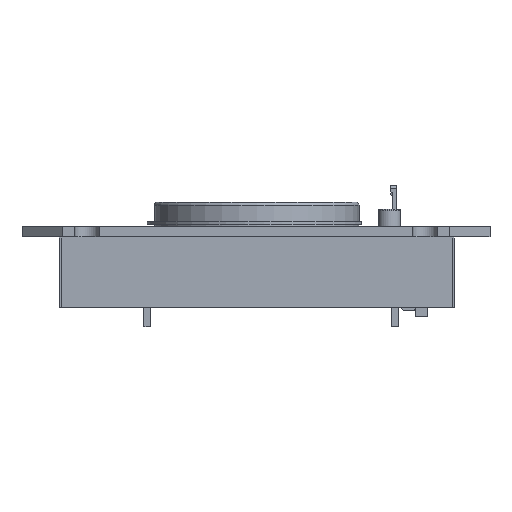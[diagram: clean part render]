
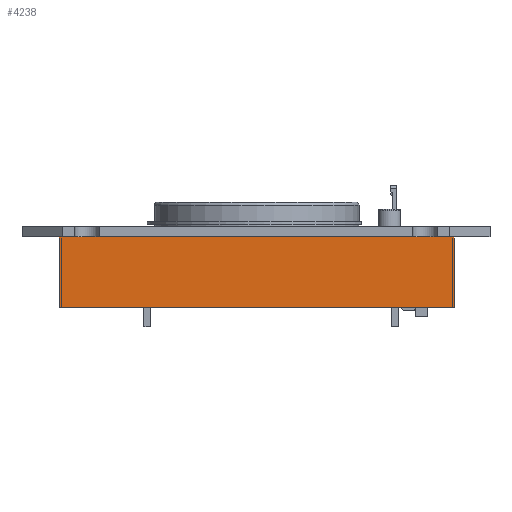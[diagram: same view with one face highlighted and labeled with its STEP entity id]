
A CAD part, left-side view. The second image highlights one B-rep face of the part: STEP entity #4238.
In plain terms, the highlighted planar face has unit normal (-1, 0, 0) as drawn and (1, 0, 0) by its records, which use the part's own axes.
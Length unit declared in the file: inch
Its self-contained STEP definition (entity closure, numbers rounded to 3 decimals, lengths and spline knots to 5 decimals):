
#3949=CARTESIAN_POINT('',(5.62,2.55,0.063));
#3950=VERTEX_POINT('',#3949);
#3957=CARTESIAN_POINT('',(5.62,0.12,0.063));
#3958=VERTEX_POINT('',#3957);
#3959=CARTESIAN_POINT('',(5.62,2.55,0.063));
#3960=DIRECTION('',(0.0,-1.0,0.0));
#3961=VECTOR('',#3960,2.43);
#3962=LINE('',#3959,#3961);
#3963=EDGE_CURVE('',#3950,#3958,#3962,.T.);
#4143=CARTESIAN_POINT('',(5.62,2.55,0.49607));
#4144=VERTEX_POINT('',#4143);
#4151=CARTESIAN_POINT('',(5.62,2.55,0.063));
#4152=DIRECTION('',(0.0,0.0,1.0));
#4153=VECTOR('',#4152,0.43307);
#4154=LINE('',#4151,#4153);
#4155=EDGE_CURVE('',#3950,#4144,#4154,.T.);
#4215=CARTESIAN_POINT('',(5.62,2.55,0.063));
#4216=DIRECTION('',(1.0,0.0,0.0));
#4217=DIRECTION('',(0.0,0.0,-1.0));
#4218=AXIS2_PLACEMENT_3D('',#4215,#4216,#4217);
#4219=PLANE('',#4218);
#4220=CARTESIAN_POINT('',(5.62,0.12,0.49607));
#4221=VERTEX_POINT('',#4220);
#4222=CARTESIAN_POINT('',(5.62,2.55,0.49607));
#4223=DIRECTION('',(0.0,-1.0,0.0));
#4224=VECTOR('',#4223,2.43);
#4225=LINE('',#4222,#4224);
#4226=EDGE_CURVE('',#4144,#4221,#4225,.T.);
#4227=ORIENTED_EDGE('',*,*,#4226,.T.);
#4228=CARTESIAN_POINT('',(5.62,0.12,0.063));
#4229=DIRECTION('',(0.0,0.0,1.0));
#4230=VECTOR('',#4229,0.43307);
#4231=LINE('',#4228,#4230);
#4232=EDGE_CURVE('',#3958,#4221,#4231,.T.);
#4233=ORIENTED_EDGE('',*,*,#4232,.F.);
#4234=ORIENTED_EDGE('',*,*,#3963,.F.);
#4235=ORIENTED_EDGE('',*,*,#4155,.T.);
#4236=EDGE_LOOP('',(#4227,#4233,#4234,#4235));
#4237=FACE_OUTER_BOUND('',#4236,.T.);
#4238=ADVANCED_FACE('',(#4237),#4219,.T.);
